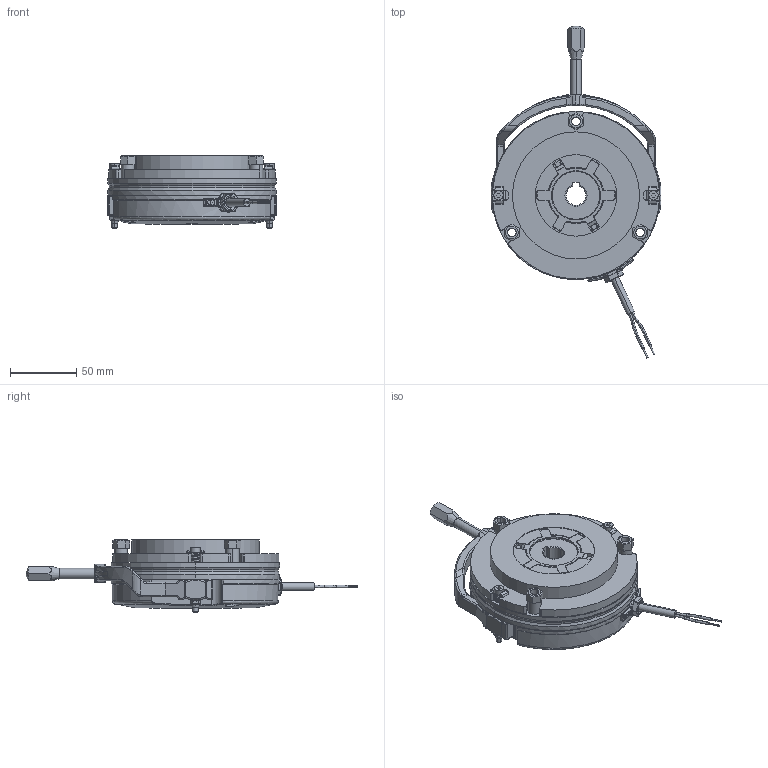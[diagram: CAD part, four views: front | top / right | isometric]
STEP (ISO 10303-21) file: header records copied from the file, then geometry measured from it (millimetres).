
FILE_DESCRIPTION (( 'STEP AP214' ), '1' );
FILE_NAME ('0438 mit HL.STEP', '2025-03-26T08:38:02', ( '' ), ( '' ), 'SwSTEP 2.0', 'SolidWorks 2022', '' );
FILE_SCHEMA (( 'AUTOMOTIVE_DESIGN' ));
Length unit declared in the file: millimetre
Products named in the file (7): 10068378_000; 10068386_000; 10068383_000; 10068385_000; 10068380_000; 0438 mit HL; 10068384_000
Assembly tree (8 placements, depth 2):
  0438 mit HL
    10068380_000
    10068384_000
    10068383_000  x3
    10068385_000
    10068386_000
    10068378_000
Bounding box: 128 x 250.77 x 54.45 mm (x, y, z)
Volume: 533448.6 mm3; surface area: 115007.1 mm2
Topology: 20 solids, 20 shells, 1217 faces, 2982 edges, 1785 vertices
Faces by surface type: cylinder 429, plane 360, bspline 222, cone 78, torus 68, sphere 60
Entity records: 56661 total; most frequent: CARTESIAN_POINT 20872, ORIENTED_EDGE 5680, DIRECTION 5180, EDGE_CURVE 2840, AXIS2_PLACEMENT_3D 2012, VERTEX_POINT 1721, EDGE_LOOP 1251, FACE_OUTER_BOUND 1183
